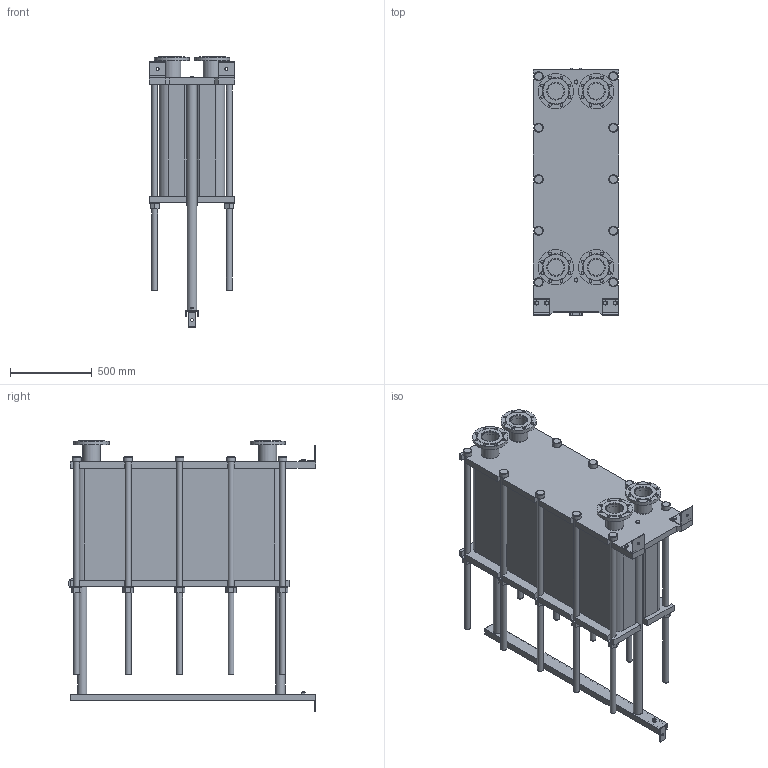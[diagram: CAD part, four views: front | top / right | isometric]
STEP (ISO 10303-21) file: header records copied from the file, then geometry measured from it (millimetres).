
FILE_DESCRIPTION(/* description */ (''),/* implementation_level */ '2;1');
FILE_NAME(/* name */ 'C:\Users\zhuro\Desktop\ENCO\TO\ЭН-04\ЭН-0,5-04-198-1.stp',/* time_stamp */ '2022-06-06T11:02:32+03:00',/* author */ ('zhuro'),/* organization */ (''),/* preprocessor_version */ 'ST-DEVELOPER v18.1',/* originating_system */ 'Autodesk Inventor 2022',/* authorisation */ '');
FILE_SCHEMA (('AUTOMOTIVE_DESIGN { 1 0 10303 214 3 1 1 }'));
Length unit declared in the file: millimetre
Products named in the file (1): ЭН-0,5-04-198-1
Bounding box: 520 x 1510 x 1654 mm (x, y, z)
Volume: 417864715.1 mm3; surface area: 10510291.2 mm2
Topology: 45 solids, 45 shells, 668 faces, 1611 edges, 1048 vertices
Faces by surface type: plane 457, cylinder 166, cone 39, torus 6
Full cylindrical faces by diameter (mm): 8 x4, 10 x2, 16 x8, 18 x35, 36 x25, 40 x2, 42 x1, 45 x4, 54 x10, 57 x2, 60 x10, 68 x2, 100 x4, 110 x8, 215 x4
Entity records: 23607 total; most frequent: CARTESIAN_POINT 7348, DIRECTION 3371, ORIENTED_EDGE 3142, EDGE_CURVE 1571, AXIS2_PLACEMENT_3D 1199, VERTEX_POINT 1044, LINE 973, VECTOR 973
